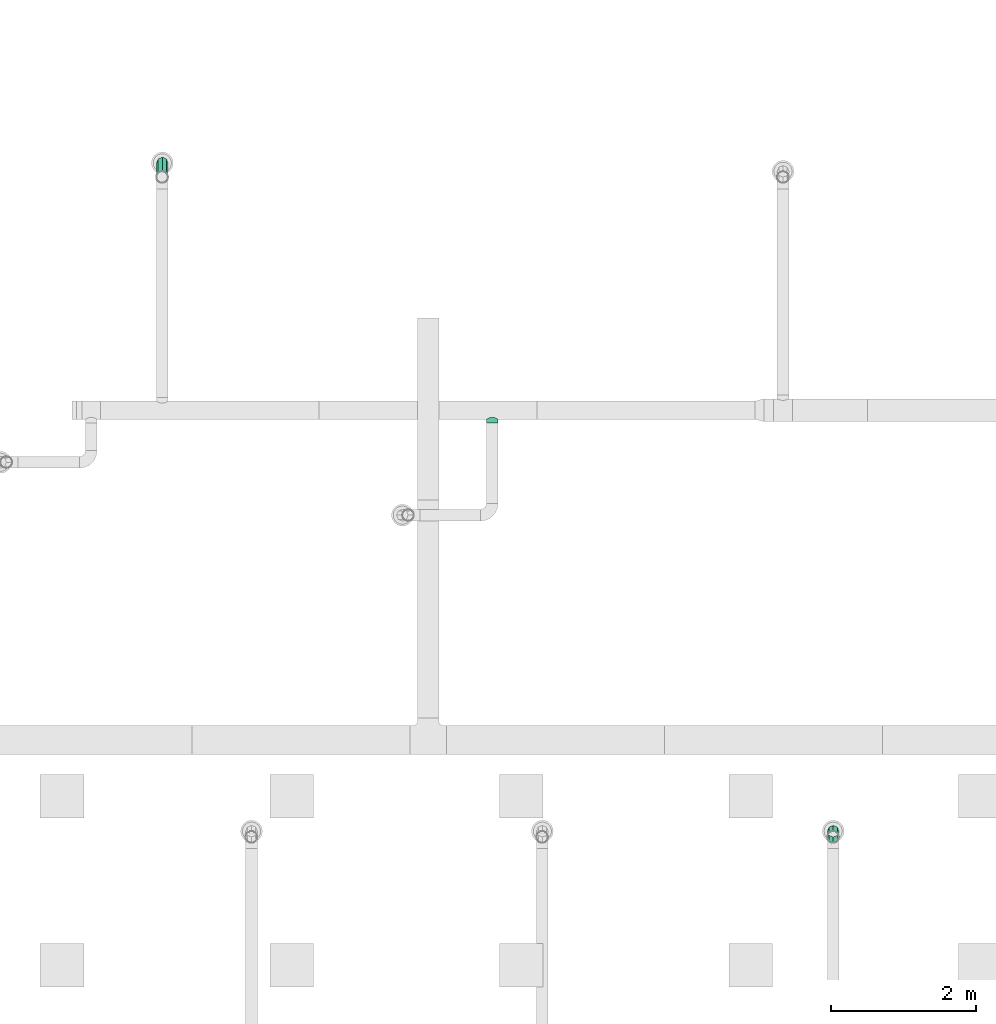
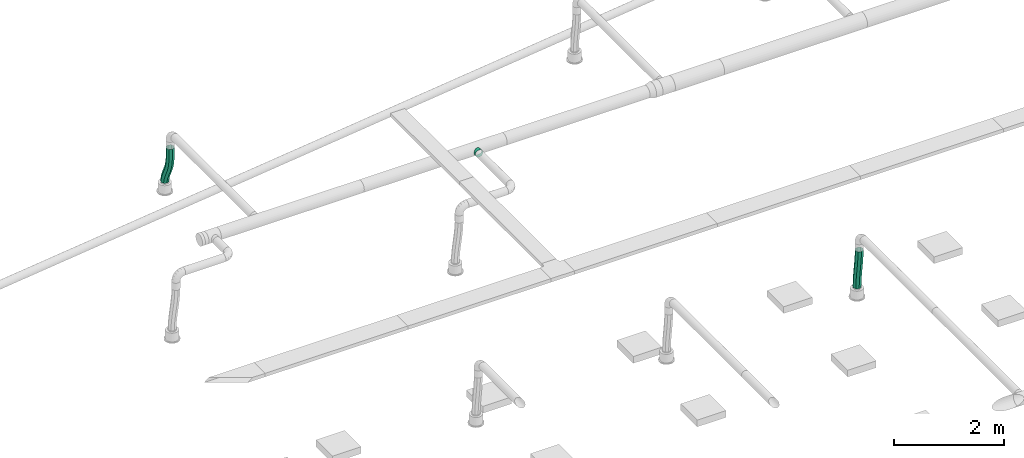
# One storey, part 240 of 374: 3 flow segments.
"""IFC2X3 building model written with IfcOpenShell, lengths in metres."""

import ifcopenshell
import ifcopenshell.guid

model = None  # the IFC model being written
_history = None  # IfcOwnerHistory: only IFC2X3 demands one
_inside = {}  # id of a spatial element -> (the spatial element, [elements in it])
_under = {}  # id of a project, library or spatial element -> (it, [spatial elements below it])
_declared = {}  # id of a project -> (the project, [libraries it declares])
_typed = {}  # id of a type object -> (the type object, [elements of that type])
_made_of = {}  # id of a material, layer set ... -> (it, [elements and type objects made of it])


def new_model(schema):
    """Start an empty IFC model of exactly this schema.

    Asked for "IFC4X3", IfcOpenShell would pick the latest addendum, in which some entities
    have other attributes; the version numbers below select the first issue.
    IFC2X3 requires an IfcOwnerHistory on every rooted entity: one is made here for all.
    """
    global model, _history
    if schema == "IFC4X3":
        model = ifcopenshell.file(schema_version=(4, 3, 0, 0))
    else:
        model = ifcopenshell.file(schema=schema)
    _inside.clear()
    _under.clear()
    _declared.clear()
    _typed.clear()
    _made_of.clear()
    _history = None
    if model.schema == "IFC2X3":
        org = make("IfcOrganization", Name="unknown")
        user = make(
            "IfcPersonAndOrganization",
            ThePerson=make("IfcPerson", FamilyName="unknown"),
            TheOrganization=org,
        )
        app = make(
            "IfcApplication",
            ApplicationDeveloper=org,
            Version="unknown",
            ApplicationFullName="unknown",
            ApplicationIdentifier="unknown",
        )
        _history = make(
            "IfcOwnerHistory",
            OwningUser=user,
            OwningApplication=app,
            ChangeAction="ADDED",
            CreationDate=0,
        )
    return model


def make(cls, **values):
    """One entity of the class cls with the attributes given. An attribute that is None is left unset."""
    return model.create_entity(
        cls, **{name: value for name, value in values.items() if value is not None}
    )


def rooted(cls, **values):
    """An entity with a GlobalId (a new one), such as an element, a storey or a relation."""
    return make(cls, GlobalId=ifcopenshell.guid.new(), OwnerHistory=_history, **values)


def si_unit(unit_type, name, prefix=None):
    """IfcSIUnit, for example si_unit("LENGTHUNIT", "METRE", prefix="MILLI")."""
    return make("IfcSIUnit", UnitType=unit_type, Prefix=prefix, Name=name)


def assignment(units):
    """IfcUnitAssignment: the units of a project."""
    return None if units is None else make("IfcUnitAssignment", Units=units)


def point(xyz):
    """IfcCartesianPoint."""
    return None if xyz is None else make("IfcCartesianPoint", Coordinates=xyz)


def direction(xyz):
    """IfcDirection."""
    return None if xyz is None else make("IfcDirection", DirectionRatios=xyz)


def frame(location, z_axis=None, x_axis=None):
    """IfcAxis2Placement3D, a coordinate frame: its origin and axes. An axis left out is left unset."""
    return make(
        "IfcAxis2Placement3D",
        Location=point(location),
        Axis=direction(z_axis),
        RefDirection=direction(x_axis),
    )


def origin():
    """The frame at (0, 0, 0) with its axes left unset."""
    return frame((0.0, 0.0, 0.0))


def place(relative_to, where):
    """IfcLocalPlacement: puts the frame where relative to a parent placement (None: the world)."""
    return make(
        "IfcLocalPlacement", PlacementRelTo=relative_to, RelativePlacement=where
    )


def context(
    kind, dimensions, precision=None, world=None, true_north=None, identifier=None
):
    """IfcGeometricRepresentationContext, for example the 3D "Model" context."""
    return make(
        "IfcGeometricRepresentationContext",
        ContextIdentifier=identifier,
        ContextType=kind,
        CoordinateSpaceDimension=dimensions,
        Precision=precision,
        WorldCoordinateSystem=world,
        TrueNorth=true_north,
    )


def subcontext(parent, identifier, kind, view, scale=None):
    """IfcGeometricRepresentationSubContext, for example "Body" below "Model"."""
    return make(
        "IfcGeometricRepresentationSubContext",
        ContextIdentifier=identifier,
        ContextType=kind,
        ParentContext=parent,
        TargetScale=scale,
        TargetView=view,
    )


def project(units=None, contexts=None):
    """IfcProject with its units and contexts."""
    return rooted(
        "IfcProject",
        Name="project",
        RepresentationContexts=contexts,
        UnitsInContext=assignment(units),
    )


def spatial(cls, under=None, at=None, **own):
    """A site, building, storey or space (cls), placed at a placement, below another one or the project."""
    s = rooted(cls, ObjectPlacement=at, **own)
    if under is not None:
        _under.setdefault(under.id(), (under, []))[1].append(s)
    return s


def faces_of(points, faces, orient=None, outer=None):
    """IfcFace entities. A face is a list of loops; a loop is a list of indices into points, from 0.

    orient and outer hold one flag for each loop. By default every Orientation is true, the
    first loop of a face is its IfcFaceOuterBound and the others are IfcFaceBound.
    """
    made = []
    for i, loops in enumerate(faces):
        bounds = []
        for j, loop in enumerate(loops):
            is_outer = j == 0 if outer is None else outer[i][j]
            bounds.append(
                make(
                    "IfcFaceOuterBound" if is_outer else "IfcFaceBound",
                    Bound=make("IfcPolyLoop", Polygon=[points[k] for k in loop]),
                    Orientation=True if orient is None else orient[i][j],
                )
            )
        made.append(make("IfcFace", Bounds=bounds))
    return made


def open_shell(faces, orient=None, outer=None):
    """The faces of one IfcOpenShell. surface_model builds it on its shared points."""
    return ("IfcOpenShell", faces, orient, outer)


def surface_model(cls, points, shells):
    """IfcFaceBasedSurfaceModel or IfcShellBasedSurfaceModel (cls): surfaces that need not close."""
    shared = [point(p) for p in points]
    made = [make(c, CfsFaces=faces_of(shared, fs, o, b)) for c, fs, o, b in shells]
    if cls == "IfcFaceBasedSurfaceModel":
        return make(cls, FbsmFaces=made)
    return make(cls, SbsmBoundary=made)


def shape(context_of_items, identifier, shape_type, items):
    """IfcShapeRepresentation: the items that make up one representation, for example the "Body"."""
    return make(
        "IfcShapeRepresentation",
        ContextOfItems=context_of_items,
        RepresentationIdentifier=identifier,
        RepresentationType=shape_type,
        Items=items,
    )


def source(mapping_origin, context_of_items, identifier, shape_type, items):
    """IfcRepresentationMap: a shape defined once, which mapped items show again and again."""
    return make(
        "IfcRepresentationMap",
        MappingOrigin=mapping_origin,
        MappedRepresentation=shape(context_of_items, identifier, shape_type, items),
    )


def transform(
    local_origin,
    x_axis=None,
    y_axis=None,
    z_axis=None,
    scale=None,
    scale2=None,
    scale3=None,
    uniform=True,
):
    """IfcCartesianTransformationOperator3D, or its non-uniform kind. x_axis, y_axis, z_axis: its Axis1, 2, 3."""
    if uniform:
        return make(
            "IfcCartesianTransformationOperator3D",
            Axis1=direction(x_axis),
            Axis2=direction(y_axis),
            LocalOrigin=point(local_origin),
            Scale=scale,
            Axis3=direction(z_axis),
        )
    return make(
        "IfcCartesianTransformationOperator3DnonUniform",
        Axis1=direction(x_axis),
        Axis2=direction(y_axis),
        LocalOrigin=point(local_origin),
        Scale=scale,
        Axis3=direction(z_axis),
        Scale2=scale2,
        Scale3=scale3,
    )


def mapped(mapping_source, mapping_target):
    """IfcMappedItem: shows the shape of a source again, moved by a transform."""
    return make(
        "IfcMappedItem", MappingSource=mapping_source, MappingTarget=mapping_target
    )


def made_of(thing, what):
    """Note that an element or type object is made of a material, layer set ...; save() writes the relation."""
    if what is not None:
        _made_of.setdefault(what.id(), (what, []))[1].append(thing)
    return thing


def element(
    cls,
    number,
    at=None,
    inside=None,
    cuts=None,
    type_object=None,
    material=None,
    context=None,
    identifier="Body",
    shape_type=None,
    held_by="IfcProductDefinitionShape",
    body=None,
    shapes=None,
    **own,
):
    """One element of the class cls, such as IfcWall. Its Tag is "e" and its number.

    at: its placement. inside: the storey or other place that contains it. cuts: it is an
    opening in that element (IfcRelVoidsElement). A single representation is given by context,
    identifier, shape_type and body (its items); several are given by shapes. held_by: the class
    of the entity that holds the representations. save() writes the other relations.
    """
    e = rooted(cls, Tag="e%d" % number, ObjectPlacement=at, **own)
    if body is not None:
        shapes = [shape(context, identifier, shape_type, body)]
    if shapes is not None:
        e.Representation = make(held_by, Representations=shapes)
    if inside is not None:
        _inside.setdefault(inside.id(), (inside, []))[1].append(e)
    if cuts is not None:
        rooted(
            "IfcRelVoidsElement", RelatingBuildingElement=cuts, RelatedOpeningElement=e
        )
    if type_object is not None:
        _typed.setdefault(type_object.id(), (type_object, []))[1].append(e)
    return made_of(e, material)


def aggregate(whole, parts):
    """IfcRelAggregates: a whole, such as a stair, and the parts it consists of."""
    return rooted("IfcRelAggregates", RelatingObject=whole, RelatedObjects=parts)


def save(model, path):
    """Write the relations noted so far, then the file.

    IfcRelAggregates (storeys below a building ...), IfcRelContainedInSpatialStructure (elements
    in a storey), IfcRelDefinesByType, IfcRelAssociatesMaterial and IfcRelDeclares: one each for
    every whole, place, type object, material and project.
    """
    for whole, parts in _under.values():
        aggregate(whole, parts)
    for where, things in _inside.values():
        rooted(
            "IfcRelContainedInSpatialStructure",
            RelatedElements=things,
            RelatingStructure=where,
        )
    for kind, things in _typed.values():
        rooted("IfcRelDefinesByType", RelatedObjects=things, RelatingType=kind)
    for what, things in _made_of.values():
        rooted("IfcRelAssociatesMaterial", RelatedObjects=things, RelatingMaterial=what)
    for by, libraries in _declared.values():
        rooted("IfcRelDeclares", RelatingContext=by, RelatedDefinitions=libraries)
    model.write(path)


model = new_model("IFC2X3")

# Units and contexts
model_context = context("Model", 3, precision=1e-05, world=origin(), true_north=direction((-0.4480736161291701, 0.8939966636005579)))
body_context = subcontext(model_context, "Body", "Model", "MODEL_VIEW")
ifc_project = project(units=[si_unit("LENGTHUNIT", "METRE"), si_unit("AREAUNIT", "SQUARE_METRE"), si_unit("VOLUMEUNIT", "CUBIC_METRE"), si_unit("PLANEANGLEUNIT", "RADIAN"), si_unit("THERMODYNAMICTEMPERATUREUNIT", "KELVIN"), si_unit("MASSUNIT", "GRAM", prefix="KILO"), si_unit("TIMEUNIT", "SECOND")], contexts=[model_context])

# Site, building, storey
site_placement = place(None, origin())
site = spatial("IfcSite", under=ifc_project, at=site_placement, Name="Site 1", CompositionType="ELEMENT")
building_placement = place(site_placement, origin())
building = spatial("IfcBuilding", under=site, at=building_placement, Name="Undefined", CompositionType="ELEMENT")
storey_placement = place(building_placement, origin())
storey = spatial("IfcBuildingStorey", under=building, at=storey_placement, Name="Rez de chauss\x8ee", CompositionType="ELEMENT", Elevation=0.0)

# Flow segments
shared_shape_1 = source(origin(), body_context, "Body", "SurfaceModel", [
    surface_model("IfcFaceBasedSurfaceModel", [(0.09425707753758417, 3.552713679e-15, 0.0), (0.05356602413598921, 0.04575228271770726, 0.0), (0.0, 0.0, 0.0), (0.03894014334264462, -0.04725143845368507, -1.1508170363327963e-06), (-0.05541274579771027, -0.044041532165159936, 0.0010358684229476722), (-0.0179936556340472, -0.09250640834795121, 0.001061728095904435), (-0.11243304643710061, -0.0867910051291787, 0.0029113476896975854), (-0.07622094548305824, -0.13616420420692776, 0.0029758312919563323), (-0.17075714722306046, -0.1286221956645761, 0.005426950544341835), (-0.13541835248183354, -0.17862412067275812, 0.005528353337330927), (-0.23007333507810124, -0.16991459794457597, 0.008379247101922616), (-0.19526250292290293, -0.22028545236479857, 0.00850648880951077), (-0.2900642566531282, -0.21105507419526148, 0.011560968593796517), (-0.2554300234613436, -0.26154749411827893, 0.011697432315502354), (-0.3504083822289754, -0.252438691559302, 0.01476113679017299), (-0.31559754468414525, -0.3028095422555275, 0.014888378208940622), (-0.41078049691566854, -0.2944689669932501, 0.01776511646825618), (-0.37544169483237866, -0.34447088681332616, 0.017866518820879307), (-0.4708512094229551, -0.337557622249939, 0.02035456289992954), (-0.4346391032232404, -0.3869308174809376, 0.020419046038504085), (-0.5302854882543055, -0.3821237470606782, 0.022307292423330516), (-0.4928663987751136, -0.43058862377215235, 0.02233315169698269), (-0.5887403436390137, -0.428592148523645, 0.02339717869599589), (-0.5498002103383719, -0.4758435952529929, 0.02339602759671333), (-0.6458081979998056, -0.4773427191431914, 0.023394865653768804), (-0.6051171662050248, -0.5230950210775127, 0.023394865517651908), (0.02506154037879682, 0.078342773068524, -0.043294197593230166), (-0.027779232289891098, 0.03321146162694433, -0.043293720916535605), (-0.08256193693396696, -0.010327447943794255, -0.04226904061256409), (-0.13908228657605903, -0.052700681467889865, -0.04040955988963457), (-0.19704465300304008, -0.09427144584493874, -0.03790924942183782), (-0.2561421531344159, -0.13541103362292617, -0.03496765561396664), (-0.3160599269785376, -0.1765011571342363, -0.03178975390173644), (-0.37647720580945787, -0.21793513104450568, -0.028585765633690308), (-0.43706801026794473, -0.26011822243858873, -0.025571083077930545), (-0.4975004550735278, -0.30346730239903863, -0.022966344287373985), (-0.5574346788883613, -0.3484096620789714, -0.020997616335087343), (-0.6165195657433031, -0.3953806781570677, -0.019896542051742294), (-0.6743126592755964, -0.4447522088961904, -0.01989933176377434), (0.025441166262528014, 0.07868040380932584, -0.10452143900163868), (-0.028124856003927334, 0.03292812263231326, -0.10452143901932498), (-0.08353760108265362, -0.011113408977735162, -0.103485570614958), (-0.14055790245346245, -0.053862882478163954, -0.1016100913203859), (-0.19888200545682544, -0.09569407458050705, -0.09909448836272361), (-0.258198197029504, -0.13698647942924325, -0.09614219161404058), (-0.3181891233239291, -0.17812695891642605, -0.09296046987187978), (-0.3785332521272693, -0.21951057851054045, -0.08976030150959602), (-0.43890536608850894, -0.2615408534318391, -0.08675632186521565), (-0.4989760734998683, -0.3046295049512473, -0.08416687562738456), (-0.5584103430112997, -0.34919562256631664, -0.08221414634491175), (-0.6168651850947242, -0.3956640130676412, -0.0811242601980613), (-0.6739330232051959, -0.4444145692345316, -0.08112657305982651), (0.05448252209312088, 0.04656739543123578, -0.14781563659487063), (-0.0008344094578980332, -0.0006840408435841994, -0.14781678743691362), (-0.05776820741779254, -0.0459390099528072, -0.1467539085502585), (-0.11599549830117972, -0.08959680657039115, -0.14483980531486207), (-0.17519290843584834, -0.1320567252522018, -0.1422872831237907), (-0.23503706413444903, -0.1737180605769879, -0.13930914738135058), (-0.29520459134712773, -0.2149801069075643, -0.1361182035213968), (-0.35537211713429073, -0.25624215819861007, -0.13292725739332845), (-0.41521626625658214, -0.2979035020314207, -0.1299491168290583), (-0.47441366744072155, -0.3403634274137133, -0.12739658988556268), (-0.5326409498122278, -0.3840212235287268, -0.12548248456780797), (-0.5895747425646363, -0.4292761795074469, -0.12441960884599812), (-0.6448916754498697, -0.47652758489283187, -0.12442077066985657), (0.09517357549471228, 0.0008151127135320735, -0.14781563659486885), (0.038105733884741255, -0.047935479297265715, -0.1478179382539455), (-0.020349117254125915, -0.09440388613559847, -0.14672804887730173), (-0.07978339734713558, -0.13897000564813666, -0.14477532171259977), (-0.1398541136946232, -0.18205865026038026, -0.14218588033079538), (-0.2002262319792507, -0.2240889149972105, -0.13918190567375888), (-0.2605703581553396, -0.26547252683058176, -0.1359817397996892), (-0.3205612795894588, -0.3066130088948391, -0.13280001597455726), (-0.37987746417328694, -0.3479054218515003, -0.12984771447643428), (-0.4382015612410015, -0.38973662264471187, -0.12733210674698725), (-0.49522186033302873, -0.4324861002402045, -0.1254566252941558), (-0.5506346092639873, -0.47652762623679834, -0.12442075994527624), (-0.6042006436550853, -0.5222798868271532, -0.12442077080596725), (0.12367805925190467, -0.03177537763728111, -0.10452143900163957), (0.0658849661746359, -0.08114694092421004, -0.10452421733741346), (0.0068000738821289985, -0.1281179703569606, -0.10342313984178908), (-0.053134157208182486, -0.1730603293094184, -0.10145441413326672), (-0.11356660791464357, -0.21640940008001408, -0.09884968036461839), (-0.17415741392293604, -0.2585924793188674, -0.0958350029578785), (-0.23457468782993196, -0.3000264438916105, -0.09263101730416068), (-0.29449245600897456, -0.34111656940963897, -0.08945311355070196), (-0.3535899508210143, -0.38225616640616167, -0.08651151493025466), (-0.41155231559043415, -0.4238269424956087, -0.08401119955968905), (-0.4680726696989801, -0.4662001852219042, -0.08215171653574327), (-0.5228553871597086, -0.5097390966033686, -0.08112703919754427), (-0.5756961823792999, -0.5548703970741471, -0.08112657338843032), (0.12329843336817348, -0.03211300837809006, -0.043294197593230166), (0.06623058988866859, -0.08086360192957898, -0.04329649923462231), (0.007775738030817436, -0.12733200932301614, -0.04220660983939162), (-0.0516585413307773, -0.17189812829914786, -0.04025388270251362), (-0.11172925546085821, -0.21498677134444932, -0.03766444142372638), (-0.17210137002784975, -0.2570170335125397, -0.03466046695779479), (-0.23244549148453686, -0.2984006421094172, -0.03146030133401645), (-0.2924364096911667, -0.33954112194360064, -0.028278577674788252), (-0.35175259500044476, -0.38083353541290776, -0.025326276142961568), (-0.41007669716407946, -0.42266473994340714, -0.02281066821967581), (-0.46709700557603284, -0.46541422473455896, -0.020935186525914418), (-0.5225097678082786, -0.5094557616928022, -0.019899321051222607), (-0.5760758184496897, -0.555208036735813, -0.019899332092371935)], [open_shell([[[0, 1, 2]], [[2, 3, 0]], [[3, 2, 4]], [[4, 5, 3]], [[5, 4, 6]], [[6, 7, 5]], [[7, 6, 8]], [[8, 9, 7]], [[9, 8, 10]], [[10, 11, 9]], [[11, 10, 12]], [[12, 13, 11]], [[13, 12, 14]], [[14, 15, 13]], [[15, 14, 16]], [[16, 17, 15]], [[17, 16, 18]], [[18, 19, 17]], [[19, 18, 20]], [[20, 21, 19]], [[21, 20, 22]], [[22, 23, 21]], [[23, 22, 24]], [[24, 25, 23]], [[1, 26, 27]], [[27, 2, 1]], [[2, 27, 28]], [[28, 4, 2]], [[4, 28, 29]], [[29, 6, 4]], [[6, 29, 30]], [[30, 8, 6]], [[8, 30, 31]], [[31, 10, 8]], [[10, 31, 32]], [[32, 12, 10]], [[12, 32, 33]], [[33, 14, 12]], [[14, 33, 34]], [[34, 16, 14]], [[16, 34, 35]], [[35, 18, 16]], [[18, 35, 36]], [[36, 20, 18]], [[20, 36, 37]], [[37, 22, 20]], [[22, 37, 38]], [[38, 24, 22]], [[26, 39, 40]], [[40, 27, 26]], [[27, 40, 41]], [[41, 28, 27]], [[28, 41, 42]], [[42, 29, 28]], [[29, 42, 43]], [[43, 30, 29]], [[30, 43, 44]], [[44, 31, 30]], [[31, 44, 45]], [[45, 32, 31]], [[32, 45, 46]], [[46, 33, 32]], [[33, 46, 47]], [[47, 34, 33]], [[34, 47, 48]], [[48, 35, 34]], [[35, 48, 49]], [[49, 36, 35]], [[36, 49, 50]], [[50, 37, 36]], [[37, 50, 51]], [[51, 38, 37]], [[39, 52, 53]], [[53, 40, 39]], [[40, 53, 54]], [[54, 41, 40]], [[41, 54, 55]], [[55, 42, 41]], [[42, 55, 56]], [[56, 43, 42]], [[43, 56, 57]], [[57, 44, 43]], [[44, 57, 58]], [[58, 45, 44]], [[45, 58, 59]], [[59, 46, 45]], [[46, 59, 60]], [[60, 47, 46]], [[47, 60, 61]], [[61, 48, 47]], [[48, 61, 62]], [[62, 49, 48]], [[49, 62, 63]], [[63, 50, 49]], [[50, 63, 64]], [[64, 51, 50]], [[52, 65, 66]], [[66, 53, 52]], [[53, 66, 67]], [[67, 54, 53]], [[54, 67, 68]], [[68, 55, 54]], [[55, 68, 69]], [[69, 56, 55]], [[56, 69, 70]], [[70, 57, 56]], [[57, 70, 71]], [[71, 58, 57]], [[58, 71, 72]], [[72, 59, 58]], [[59, 72, 73]], [[73, 60, 59]], [[60, 73, 74]], [[74, 61, 60]], [[61, 74, 75]], [[75, 62, 61]], [[62, 75, 76]], [[76, 63, 62]], [[63, 76, 77]], [[77, 64, 63]], [[65, 78, 79]], [[79, 66, 65]], [[66, 79, 80]], [[80, 67, 66]], [[67, 80, 81]], [[81, 68, 67]], [[68, 81, 82]], [[82, 69, 68]], [[69, 82, 83]], [[83, 70, 69]], [[70, 83, 84]], [[84, 71, 70]], [[71, 84, 85]], [[85, 72, 71]], [[72, 85, 86]], [[86, 73, 72]], [[73, 86, 87]], [[87, 74, 73]], [[74, 87, 88]], [[88, 75, 74]], [[75, 88, 89]], [[89, 76, 75]], [[76, 89, 90]], [[90, 77, 76]], [[78, 91, 92]], [[92, 79, 78]], [[79, 92, 93]], [[93, 80, 79]], [[80, 93, 94]], [[94, 81, 80]], [[81, 94, 95]], [[95, 82, 81]], [[82, 95, 96]], [[96, 83, 82]], [[83, 96, 97]], [[97, 84, 83]], [[84, 97, 98]], [[98, 85, 84]], [[85, 98, 99]], [[99, 86, 85]], [[86, 99, 100]], [[100, 87, 86]], [[87, 100, 101]], [[101, 88, 87]], [[88, 101, 102]], [[102, 89, 88]], [[89, 102, 103]], [[103, 90, 89]], [[91, 0, 3]], [[3, 92, 91]], [[92, 3, 5]], [[5, 93, 92]], [[93, 5, 7]], [[7, 94, 93]], [[94, 7, 9]], [[9, 95, 94]], [[95, 9, 11]], [[11, 96, 95]], [[96, 11, 13]], [[13, 97, 96]], [[97, 13, 15]], [[15, 98, 97]], [[98, 15, 17]], [[17, 99, 98]], [[99, 17, 19]], [[19, 100, 99]], [[100, 19, 21]], [[21, 101, 100]], [[101, 21, 23]], [[23, 102, 101]], [[102, 23, 25]], [[25, 103, 102]]])]),
])
flow_segment_1_placement = place(storey_placement, origin())
element("IfcFlowSegment", 1, at=flow_segment_1_placement, inside=storey, Name="Tube flexible", ObjectType="Tube flexible", context=body_context, shape_type="MappedRepresentation", body=[
    mapped(shared_shape_1, transform((14.923484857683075, 16.9333926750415, 3.409570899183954), x_axis=(-0.24859097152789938, -0.6163532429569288, 0.7472022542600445), y_axis=(0.29104622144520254, 0.688238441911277, 0.6645449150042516), z_axis=(-0.9238477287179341, 0.3826702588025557, 0.008297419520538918))),
])
shared_shape_2 = source(origin(), body_context, "Body", "SurfaceModel", [
    surface_model("IfcFaceBasedSurfaceModel", [(0.0953955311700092, 0.0, -3.552713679e-15), (0.05603847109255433, 0.04690474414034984, 0.0), (0.0, 0.0, 0.0), (0.03937469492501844, -0.04688994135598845, -7.820992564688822e-08), (-0.055366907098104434, -0.04663999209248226, 0.0005504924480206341), (-0.015647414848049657, -0.09323822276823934, 0.0005446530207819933), (-0.10916644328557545, -0.0930327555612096, 0.003072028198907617), (-0.06871361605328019, -0.13899578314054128, 0.0030265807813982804), (-0.1606723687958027, -0.13929460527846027, 0.008905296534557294), (-0.11910653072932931, -0.18425327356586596, 0.008725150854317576), (-0.20921021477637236, -0.18553964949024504, 0.01930667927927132), (-0.16618199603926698, -0.22909822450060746, 0.018800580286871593), (-0.2543493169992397, -0.23208434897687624, 0.03552938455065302), (-0.2096406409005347, -0.27390433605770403, 0.034408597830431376), (-0.2998000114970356, -0.28354843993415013, 0.060376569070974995), (-0.2538175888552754, -0.3239394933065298, 0.058584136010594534), (-0.3448718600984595, -0.33769007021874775, 0.09076774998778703), (-0.29837564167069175, -0.3774723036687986, 0.08864436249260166), (-0.39151141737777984, -0.39409084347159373, 0.12291203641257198), (-0.34530761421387, -0.4342220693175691, 0.12098162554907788), (-0.44173766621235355, -0.45207864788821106, 0.15243659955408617), (-0.39670875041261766, -0.49354928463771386, 0.15116528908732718), (-0.4960993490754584, -0.5091660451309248, 0.17388611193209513), (-0.4525950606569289, -0.5522471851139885, 0.17323383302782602), (-0.5286940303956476, -0.5401851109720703, 0.18080444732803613), (-0.48744582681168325, -0.5854355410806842, 0.18067224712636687), (-0.5619185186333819, -0.5692906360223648, 0.18320430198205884), (-0.5225614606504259, -0.6161953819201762, 0.18320430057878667), (0.028111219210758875, 0.07998950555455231, -0.04329550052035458), (-0.027969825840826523, 0.033049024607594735, -0.04329531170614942), (-0.08416914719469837, -0.014295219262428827, -0.04273091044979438), (-0.13973911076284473, -0.062221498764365, -0.04011375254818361), (-0.19393208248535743, -0.11090808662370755, -0.033955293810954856), (-0.24600042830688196, -0.16053325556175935, -0.02276699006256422), (-0.2951965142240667, -0.2112752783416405, -0.00506029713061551), (-0.34372230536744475, -0.2661891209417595, 0.021408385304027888), (-0.39003456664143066, -0.3218005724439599, 0.052598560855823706), (-0.4359681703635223, -0.37735880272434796, 0.08427696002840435), (-0.48335798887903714, -0.43211298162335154, 0.11221031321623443), (-0.5340388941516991, -0.4853122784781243, 0.13216535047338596), (-0.5611869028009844, -0.5110942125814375, 0.1378281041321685), (-0.5898457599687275, -0.5362058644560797, 0.13990880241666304), (0.027973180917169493, 0.07987367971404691, -0.10452458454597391), (-0.028150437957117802, 0.032897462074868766, -0.10452420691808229), (-0.08518217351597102, -0.015151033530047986, -0.10394589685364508), (-0.1425225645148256, -0.06461082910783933, -0.10123311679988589), (-0.199402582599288, -0.11572215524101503, -0.09474946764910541), (-0.2550014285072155, -0.1687274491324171, -0.08277424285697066), (-0.3082544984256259, -0.22366679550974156, -0.06358356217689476), (-0.3598553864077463, -0.28203038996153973, -0.03549338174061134), (-0.40740806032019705, -0.3391116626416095, -0.003504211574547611), (-0.4526357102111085, -0.3938273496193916, 0.027708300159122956), (-0.4971890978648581, -0.4453479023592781, 0.054050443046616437), (-0.5441892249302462, -0.4946590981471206, 0.07251100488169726), (-0.5658905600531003, -0.5152038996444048, 0.07691817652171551), (-0.5899837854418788, -0.5363216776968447, 0.07867971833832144), (0.055705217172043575, 0.0466251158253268, -0.1478200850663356), (-0.00043603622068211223, -0.0003659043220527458, -0.14781962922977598), (-0.05781256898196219, -0.04870611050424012, -0.14723555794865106), (-0.11588629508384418, -0.09880110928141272, -0.14448316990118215), (-0.1738793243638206, -0.15091679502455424, -0.13786482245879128), (-0.2309405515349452, -0.2053221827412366, -0.12556364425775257), (-0.2858740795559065, -0.26200011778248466, -0.10575827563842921), (-0.33874871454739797, -0.32179264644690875, -0.07699644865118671), (-0.3868151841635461, -0.37948273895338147, -0.0446763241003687), (-0.43175041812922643, -0.4338494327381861, -0.013656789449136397), (-0.4751289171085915, -0.48403057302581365, 0.012026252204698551), (-0.5206044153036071, -0.5317312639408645, 0.02986778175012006), (-0.5400496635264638, -0.550106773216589, 0.03375487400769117), (-0.5622517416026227, -0.5695702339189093, 0.03538421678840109), (0.09506227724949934, -0.0002796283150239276, -0.1478200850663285), (0.03893865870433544, -0.04725584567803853, -0.14781970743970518), (-0.01809307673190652, -0.09530434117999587, -0.14724139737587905), (-0.07543346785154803, -0.14476413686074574, -0.14452861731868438), (-0.13231348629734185, -0.19587546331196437, -0.1380449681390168), (-0.1879123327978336, -0.24888075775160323, -0.1260697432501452), (-0.24116540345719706, -0.30382010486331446, -0.10687906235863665), (-0.2927662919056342, -0.36218369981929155, -0.07878888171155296), (-0.3403189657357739, -0.41926497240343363, -0.04679971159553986), (-0.38554661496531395, -0.47398065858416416, -0.015587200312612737), (-0.4301000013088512, -0.5255012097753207, 0.010754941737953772), (-0.47710012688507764, -0.5748124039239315, 0.029215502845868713), (-0.49880145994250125, -0.5953572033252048, 0.03362267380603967), (-0.5228946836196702, -0.616474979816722, 0.035384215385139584), (0.12298952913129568, -0.033364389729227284, -0.10452458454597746), (0.06690848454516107, -0.08030487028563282, -0.10452439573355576), (0.010709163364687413, -0.12764911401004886, -0.10395999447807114), (-0.04486080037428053, -0.17557539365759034, -0.10134283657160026), (-0.09905377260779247, -0.22426198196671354, -0.09518437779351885), (-0.1511221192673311, -0.2738871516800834, -0.08399607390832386), (-0.20031820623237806, -0.3246291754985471, -0.06628938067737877), (-0.24884399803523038, -0.37954301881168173, -0.03982069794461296), (-0.2951562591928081, -0.43515447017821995, -0.00863052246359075), (-0.3410898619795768, -0.4907126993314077, 0.023047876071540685), (-0.38847967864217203, -0.5454668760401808, 0.05098122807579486), (-0.43916058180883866, -0.5986661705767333, 0.07093626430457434), (-0.4663085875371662, -0.624448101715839, 0.0765990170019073), (-0.4949674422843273, -0.649559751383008, 0.07867971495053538), (0.12312756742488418, -0.033248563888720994, -0.04329550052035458), (0.06708909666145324, -0.08015330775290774, -0.0432955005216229), (0.01172218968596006, -0.12679329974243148, -0.04274500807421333), (-0.04207734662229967, -0.1731860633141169, -0.04022347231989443), (-0.09358327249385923, -0.21944791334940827, -0.034390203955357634), (-0.14212111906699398, -0.2656929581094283, -0.023988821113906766), (-0.1872602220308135, -0.3122376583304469, -0.007766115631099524), (-0.23271091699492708, -0.36370174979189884, 0.017081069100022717), (-0.2777827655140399, -0.4178433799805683, 0.04747224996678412), (-0.3244223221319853, -0.47424415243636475, 0.07961653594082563), (-0.3746485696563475, -0.5322319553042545, 0.1091410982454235), (-0.429010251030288, -0.5893193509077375, 0.13059060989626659), (-0.46160493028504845, -0.6203384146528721, 0.13750894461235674), (-0.49482941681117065, -0.6494439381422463, 0.13990879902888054)], [open_shell([[[0, 1, 2]], [[2, 3, 0]], [[3, 2, 4]], [[4, 5, 3]], [[5, 4, 6]], [[6, 7, 5]], [[7, 6, 8]], [[8, 9, 7]], [[9, 8, 10]], [[10, 11, 9]], [[11, 10, 12]], [[12, 13, 11]], [[13, 12, 14]], [[14, 15, 13]], [[15, 14, 16]], [[16, 17, 15]], [[17, 16, 18]], [[18, 19, 17]], [[19, 18, 20]], [[20, 21, 19]], [[21, 20, 22]], [[22, 23, 21]], [[23, 22, 24]], [[24, 25, 23]], [[25, 24, 26]], [[26, 27, 25]], [[1, 28, 29]], [[29, 2, 1]], [[2, 29, 30]], [[30, 4, 2]], [[4, 30, 31]], [[31, 6, 4]], [[6, 31, 32]], [[32, 8, 6]], [[8, 32, 33]], [[33, 10, 8]], [[10, 33, 34]], [[34, 12, 10]], [[12, 34, 35]], [[35, 14, 12]], [[14, 35, 36]], [[36, 16, 14]], [[16, 36, 37]], [[37, 18, 16]], [[18, 37, 38]], [[38, 20, 18]], [[20, 38, 39]], [[39, 22, 20]], [[22, 39, 40]], [[40, 24, 22]], [[24, 40, 41]], [[41, 26, 24]], [[28, 42, 43]], [[43, 29, 28]], [[29, 43, 44]], [[44, 30, 29]], [[30, 44, 45]], [[45, 31, 30]], [[31, 45, 46]], [[46, 32, 31]], [[32, 46, 47]], [[47, 33, 32]], [[33, 47, 48]], [[48, 34, 33]], [[34, 48, 49]], [[49, 35, 34]], [[35, 49, 50]], [[50, 36, 35]], [[36, 50, 51]], [[51, 37, 36]], [[37, 51, 52]], [[52, 38, 37]], [[38, 52, 53]], [[53, 39, 38]], [[39, 53, 54]], [[54, 40, 39]], [[40, 54, 55]], [[55, 41, 40]], [[42, 56, 57]], [[57, 43, 42]], [[43, 57, 58]], [[58, 44, 43]], [[44, 58, 59]], [[59, 45, 44]], [[45, 59, 60]], [[60, 46, 45]], [[46, 60, 61]], [[61, 47, 46]], [[47, 61, 62]], [[62, 48, 47]], [[48, 62, 63]], [[63, 49, 48]], [[49, 63, 64]], [[64, 50, 49]], [[50, 64, 65]], [[65, 51, 50]], [[51, 65, 66]], [[66, 52, 51]], [[52, 66, 67]], [[67, 53, 52]], [[53, 67, 68]], [[68, 54, 53]], [[54, 68, 69]], [[69, 55, 54]], [[56, 70, 71]], [[71, 57, 56]], [[57, 71, 72]], [[72, 58, 57]], [[58, 72, 73]], [[73, 59, 58]], [[59, 73, 74]], [[74, 60, 59]], [[60, 74, 75]], [[75, 61, 60]], [[61, 75, 76]], [[76, 62, 61]], [[62, 76, 77]], [[77, 63, 62]], [[63, 77, 78]], [[78, 64, 63]], [[64, 78, 79]], [[79, 65, 64]], [[65, 79, 80]], [[80, 66, 65]], [[66, 80, 81]], [[81, 67, 66]], [[67, 81, 82]], [[82, 68, 67]], [[68, 82, 83]], [[83, 69, 68]], [[70, 84, 85]], [[85, 71, 70]], [[71, 85, 86]], [[86, 72, 71]], [[72, 86, 87]], [[87, 73, 72]], [[73, 87, 88]], [[88, 74, 73]], [[74, 88, 89]], [[89, 75, 74]], [[75, 89, 90]], [[90, 76, 75]], [[76, 90, 91]], [[91, 77, 76]], [[77, 91, 92]], [[92, 78, 77]], [[78, 92, 93]], [[93, 79, 78]], [[79, 93, 94]], [[94, 80, 79]], [[80, 94, 95]], [[95, 81, 80]], [[81, 95, 96]], [[96, 82, 81]], [[82, 96, 97]], [[97, 83, 82]], [[84, 98, 99]], [[99, 85, 84]], [[85, 99, 100]], [[100, 86, 85]], [[86, 100, 101]], [[101, 87, 86]], [[87, 101, 102]], [[102, 88, 87]], [[88, 102, 103]], [[103, 89, 88]], [[89, 103, 104]], [[104, 90, 89]], [[90, 104, 105]], [[105, 91, 90]], [[91, 105, 106]], [[106, 92, 91]], [[92, 106, 107]], [[107, 93, 92]], [[93, 107, 108]], [[108, 94, 93]], [[94, 108, 109]], [[109, 95, 94]], [[95, 109, 110]], [[110, 96, 95]], [[96, 110, 111]], [[111, 97, 96]], [[98, 0, 3]], [[3, 99, 98]], [[99, 3, 5]], [[5, 100, 99]], [[100, 5, 7]], [[7, 101, 100]], [[101, 7, 9]], [[9, 102, 101]], [[102, 9, 11]], [[11, 103, 102]], [[103, 11, 13]], [[13, 104, 103]], [[104, 13, 15]], [[15, 105, 104]], [[105, 15, 17]], [[17, 106, 105]], [[106, 17, 19]], [[19, 107, 106]], [[107, 19, 21]], [[21, 108, 107]], [[108, 21, 23]], [[23, 109, 108]], [[109, 23, 25]], [[25, 110, 109]], [[110, 25, 27]], [[27, 111, 110]]])]),
])
flow_segment_2_placement = place(storey_placement, origin())
element("IfcFlowSegment", 2, at=flow_segment_2_placement, inside=storey, Name="Tube flexible", ObjectType="Tube flexible", context=body_context, shape_type="MappedRepresentation", body=[
    mapped(shared_shape_2, transform((5.810112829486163, 26.00633453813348, 3.4069225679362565), x_axis=(-0.5929894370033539, 0.24806446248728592, 0.7660467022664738), y_axis=(0.7084618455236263, -0.29140697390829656, 0.6427781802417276), z_axis=(0.3826817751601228, 0.9238755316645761, -0.0029429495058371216))),
])
shared_shape_3 = source(origin(), body_context, "Body", "SurfaceModel", [
    surface_model("IfcFaceBasedSurfaceModel", [(0.0, 0.020884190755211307, 0.0), (0.0, 0.0, 0.0), (0.051726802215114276, 8.8817842e-16, 0.0), (0.05000000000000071, 0.020884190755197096, 1.776356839e-15), (0.0, -0.020172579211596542, -0.005405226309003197), (0.05657280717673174, -0.020172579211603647, -0.005405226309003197), (0.0, -0.03825881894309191, -0.015847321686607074), (0.06353251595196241, -0.038258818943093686, -0.015847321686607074), (0.0, -0.05302617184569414, -0.0306146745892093), (0.0709567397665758, -0.053026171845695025, -0.030614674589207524), (0.0, -0.06346826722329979, -0.04870091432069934), (0.07674666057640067, -0.0634682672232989, -0.04870091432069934), (0.0, -0.06887349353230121, -0.06887349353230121), (0.07895313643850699, -0.06887349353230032, -0.06887349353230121), (0.0, -0.06887349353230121, -0.08975768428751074), (0.07674666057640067, -0.06887349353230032, -0.08975768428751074), (0.0, -0.06346826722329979, -0.10993026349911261), (0.0709567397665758, -0.0634682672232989, -0.10993026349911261), (0.0, -0.05302617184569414, -0.12801650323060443), (0.06353251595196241, -0.05302617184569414, -0.12801650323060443), (0.0, -0.038258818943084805, -0.14278385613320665), (0.05657280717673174, -0.038258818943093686, -0.14278385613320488), (0.0, -0.020172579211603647, -0.15322595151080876), (0.051726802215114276, -0.020172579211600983, -0.15322595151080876), (0.0, 7.105427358e-15, -0.15863117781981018), (0.05000000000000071, -1.4210854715e-14, -0.1586311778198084), (0.0, 0.020884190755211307, -0.15863117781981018), (0.051726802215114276, 0.020884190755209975, -0.15863117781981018), (0.0, 0.04105676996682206, -0.15322595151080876), (0.05657280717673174, 0.0410567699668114, -0.15322595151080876), (0.0, 0.05914300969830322, -0.1427838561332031), (0.06353251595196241, 0.05914300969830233, -0.14278385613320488), (0.0, 0.07391036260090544, -0.12801650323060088), (0.0709567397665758, 0.07391036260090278, -0.12801650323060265), (0.0, 0.0843524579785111, -0.10993026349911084), (0.07674666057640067, 0.08435245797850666, -0.10993026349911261), (0.0, 0.08975768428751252, -0.08975768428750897), (0.07895313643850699, 0.08975768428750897, -0.08975768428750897), (0.0, 0.08975768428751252, -0.06887349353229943), (0.07674666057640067, 0.08975768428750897, -0.06887349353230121), (0.0, 0.0843524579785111, -0.048700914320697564), (0.0709567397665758, 0.08435245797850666, -0.04870091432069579), (0.0, 0.07391036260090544, -0.030614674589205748), (0.06353251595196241, 0.07391036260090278, -0.030614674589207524), (0.0, 0.05914300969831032, -0.015847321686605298), (0.05657280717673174, 0.05914300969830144, -0.015847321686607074), (0.0, 0.04105676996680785, -0.005405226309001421), (0.051726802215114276, 0.04105676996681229, -0.005405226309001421)], [open_shell([[[0, 1, 2, 3]], [[1, 4, 5, 2]], [[4, 6, 7, 5]], [[6, 8, 9, 7]], [[8, 10, 11, 9]], [[10, 12, 13, 11]], [[12, 14, 15, 13]], [[14, 16, 17, 15]], [[16, 18, 19, 17]], [[18, 20, 21, 19]], [[20, 22, 23, 21]], [[22, 24, 25, 23]], [[24, 26, 27, 25]], [[26, 28, 29, 27]], [[28, 30, 31, 29]], [[30, 32, 33, 31]], [[32, 34, 35, 33]], [[34, 36, 37, 35]], [[36, 38, 39, 37]], [[38, 40, 41, 39]], [[40, 42, 43, 41]], [[42, 44, 45, 43]], [[44, 46, 47, 45]], [[46, 0, 3, 47]]])]),
])
flow_segment_3_placement = place(storey_placement, origin())
element("IfcFlowSegment", 3, at=flow_segment_3_placement, inside=storey, Name="Piquage équerre circulaire", ObjectType="Piquage équerre circulaire", context=body_context, shape_type="MappedRepresentation", body=[
    mapped(shared_shape_3, transform((10.21272686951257, 22.569929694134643, 3.820705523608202), x_axis=(0.0, 1.0, 0.0), y_axis=(-0.13052619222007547, 0.0, -0.9914448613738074), z_axis=(-0.9914448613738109, 0.0, 0.1305261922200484))),
])

save(model, "model.ifc")
